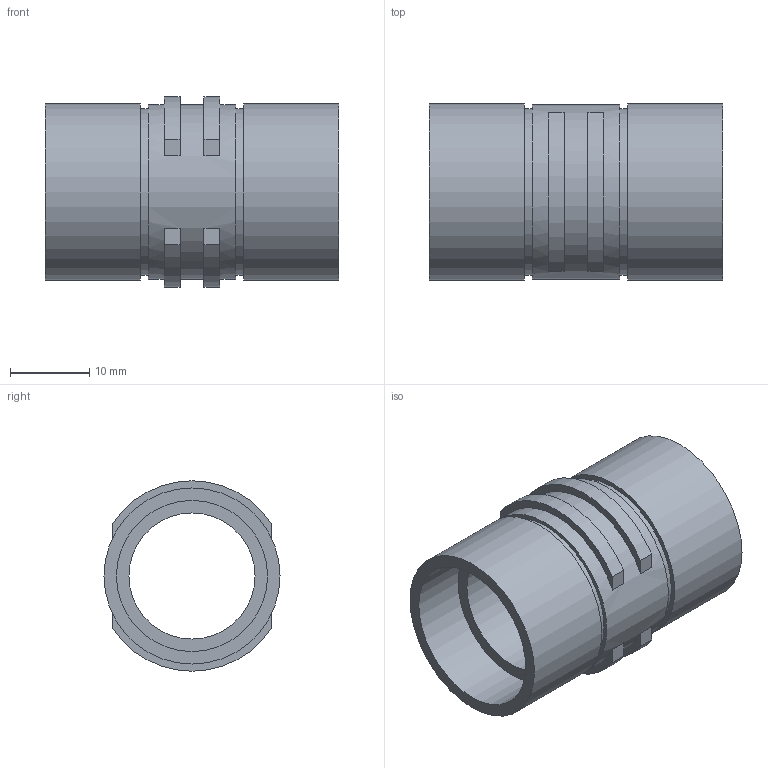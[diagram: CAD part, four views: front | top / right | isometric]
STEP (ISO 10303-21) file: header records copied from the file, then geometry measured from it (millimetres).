
FILE_DESCRIPTION( ( 'Unknown' ), '1' );
FILE_NAME( '//Sv02/01_社内情報/103_技術部/012_図面/図面/電子カタログ-3D/電子カタログ-3D元ファイル(par)/70_3D電子カタログ/01_U/インチ/70-19.05U-P.stp', 'Unknown', ( 'Unknown' ), ( 'Unknown' ), 'XStep 1.0', 'Unknown', ' ' );
FILE_SCHEMA( ( 'CONFIG_CONTROL_DESIGN' ) );
Length unit declared in the file: millimetre
Products named in the file (1): 1
Bounding box: 37 x 22.2 x 24 mm (x, y, z)
Volume: 5801.7 mm3; surface area: 5294.2 mm2
Topology: 1 solids, 1 shells, 36 faces, 78 edges, 52 vertices
Faces by surface type: plane 24, cylinder 12
Full cylindrical faces by diameter (mm): 15.9 x1, 19.05 x2, 21 x2, 22 x1, 22.2 x2
Entity records: 956 total; most frequent: DIRECTION 170, CARTESIAN_POINT 149, ORIENTED_EDGE 128, AXIS2_PLACEMENT_3D 69, EDGE_CURVE 64, EDGE_LOOP 56, VERTEX_POINT 48, FACE_OUTER_BOUND 44
